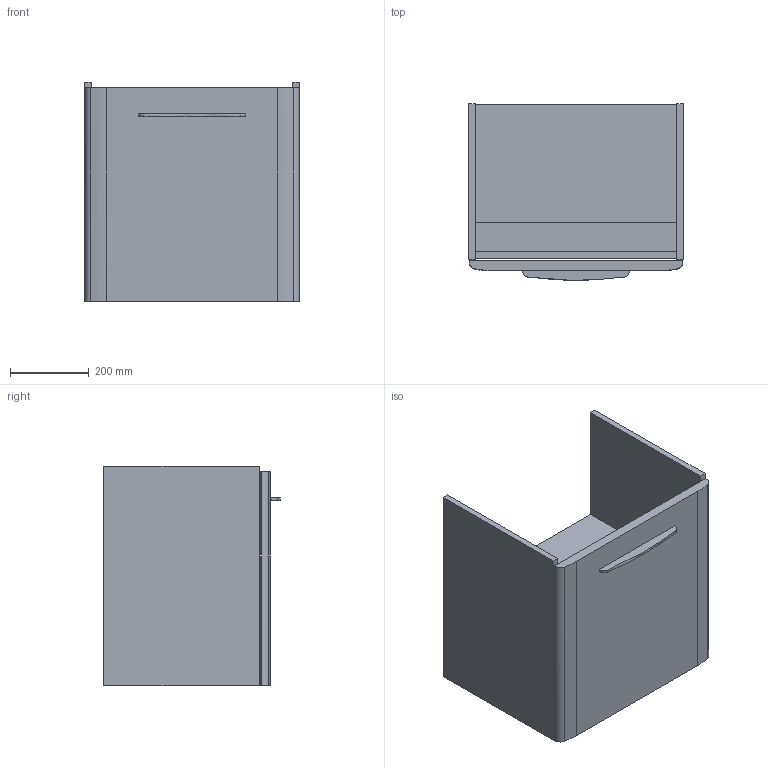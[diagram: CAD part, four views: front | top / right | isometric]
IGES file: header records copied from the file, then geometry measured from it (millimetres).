
Global section: file name: 500180; native system: Autodesk Inventor 2018; preprocessor: unknown; author: JANAN; date: 20191126.150329; units: millimetre
Bounding box: 544 x 447.9 x 557 mm (x, y, z)
Volume: 22093889.5 mm3; surface area: 2566327.5 mm2
Topology: 2 solids, 2 shells, 45 faces, 114 edges, 76 vertices
Faces by surface type: bspline 45
